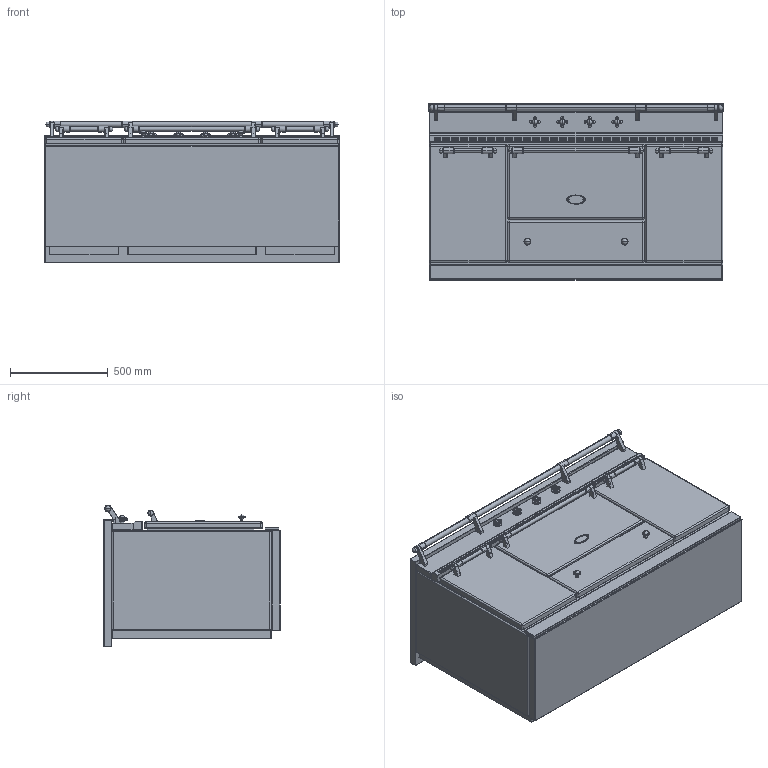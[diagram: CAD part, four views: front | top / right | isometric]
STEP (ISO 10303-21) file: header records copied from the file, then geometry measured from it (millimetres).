
FILE_DESCRIPTION((''),'2;1');
FILE_NAME('LVI1531__ASM','2014-07-29T',('r.avril'),(''),'PRO/ENGINEER BY PARAMETRIC TECHNOLOGY CORPORATION, 2014090','PRO/ENGINEER BY PARAMETRIC TECHNOLOGY CORPORATION, 2014090','');
FILE_SCHEMA(('AP203_CONFIGURATION_CONTROLLED_3D_DESIGN_OF_MECHANICAL_PARTS_AND_ASSEMBLIES_MIM_LF { 1 0 10303 403 2 1 2 }'));
Products named in the file (19): BASE_EXPORT_FONTENAY_LVI1531; 65650003; 65650004; 65650006; 65650007; 6531940; 6531941; 6531943; 65049009; 65650001; 6538399; 1931942; 6518450; 6531942_ASM; BASE_EXPORT_FONTENAY_LVI1531_ASM; TABLE_1500_INDUCTION_ET_VTR; 65052012; TABLE_1500_INDUCTION_ASM; LVI1531__ASM
Assembly tree (26 placements, depth 4):
  LVI1531__ASM
    BASE_EXPORT_FONTENAY_LVI1531_ASM
      BASE_EXPORT_FONTENAY_LVI1531
      65650003
      65650004
      65650006
      65650007
      6531940  x3
      6531941  x3
      6531943  x2
      65049009
      65650001
      6531942_ASM  x4
        6538399
        1931942
        6518450
    TABLE_1500_INDUCTION_ASM
      TABLE_1500_INDUCTION_ET_VTR
      65052012
Bounding box: 1505 x 900.68 x 724 mm (x, y, z)
Volume: 788951062.8 mm3; surface area: 11629242 mm2
Topology: 33 solids, 45 shells, 3092 faces, 8175 edges, 5402 vertices
Faces by surface type: plane 1604, cylinder 922, torus 190, sphere 138, extrusion 114, cone 62, bspline 46, revolution 16
Entity records: 81777 total; most frequent: CARTESIAN_POINT 15428, DIRECTION 11212, ORIENTED_EDGE 9532, EDGE_CURVE 4780, AXIS2_PLACEMENT_3D 3815, VECTOR 3517, LINE 3487, VERTEX_POINT 3041
